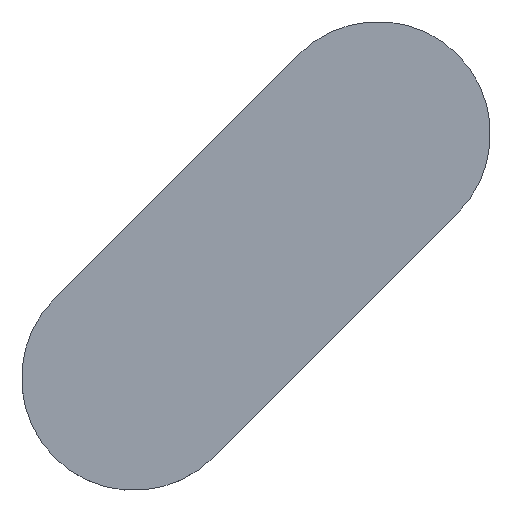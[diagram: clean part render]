
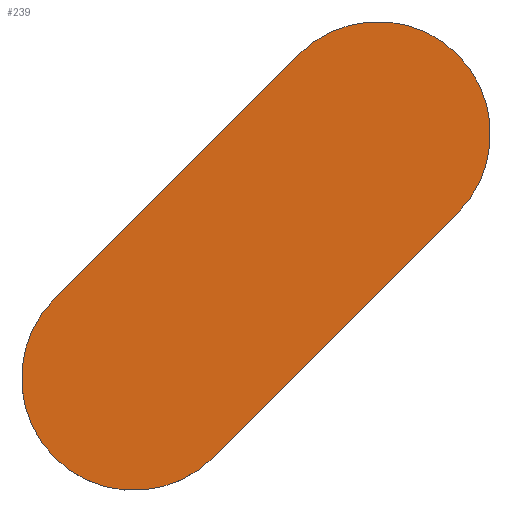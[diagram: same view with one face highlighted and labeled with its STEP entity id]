
A CAD part, top view. The second image highlights one B-rep face of the part: STEP entity #239.
In plain terms, the highlighted planar face has unit normal (0, 0, 1).
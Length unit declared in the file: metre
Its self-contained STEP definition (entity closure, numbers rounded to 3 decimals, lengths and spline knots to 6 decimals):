
#18=PLANE('',#273);
#34=LINE('',#413,#52);
#36=LINE('',#418,#54);
#52=VECTOR('',#341,1.);
#54=VECTOR('',#349,1.);
#121=ORIENTED_EDGE('',*,*,#149,.F.);
#122=ORIENTED_EDGE('',*,*,#154,.T.);
#123=ORIENTED_EDGE('',*,*,#152,.F.);
#124=ORIENTED_EDGE('',*,*,#156,.T.);
#149=EDGE_CURVE('',#173,#174,#189,.T.);
#152=EDGE_CURVE('',#175,#176,#190,.T.);
#154=EDGE_CURVE('',#173,#176,#34,.T.);
#156=EDGE_CURVE('',#175,#174,#36,.T.);
#173=VERTEX_POINT('',#402);
#174=VERTEX_POINT('',#404);
#175=VERTEX_POINT('',#408);
#176=VERTEX_POINT('',#410);
#189=CIRCLE('',#266,0.00065);
#190=CIRCLE('',#268,0.00065);
#206=EDGE_LOOP('',(#121,#122,#123,#124));
#222=FACE_BOUND('',#206,.T.);
#239=ADVANCED_FACE('',(#222),#18,.F.);
#266=AXIS2_PLACEMENT_3D('',#403,#330,#331);
#268=AXIS2_PLACEMENT_3D('',#409,#336,#337);
#273=AXIS2_PLACEMENT_3D('',#419,#350,#351);
#330=DIRECTION('',(0.,0.,-1.));
#331=DIRECTION('',(0.,1.,0.));
#336=DIRECTION('',(0.,0.,-1.));
#337=DIRECTION('',(0.,1.,0.));
#341=DIRECTION('',(-0.707,-0.707,0.));
#349=DIRECTION('',(0.707,0.707,0.));
#350=DIRECTION('',(0.,0.,-1.));
#351=DIRECTION('',(-1.,0.,0.));
#402=CARTESIAN_POINT('',(0.016453,0.005395,-0.03));
#403=CARTESIAN_POINT('',(0.016912,0.004936,-0.03));
#404=CARTESIAN_POINT('',(0.017372,0.004476,-0.03));
#408=CARTESIAN_POINT('',(0.015958,0.003062,-0.03));
#409=CARTESIAN_POINT('',(0.015498,0.003521,-0.03));
#410=CARTESIAN_POINT('',(0.015038,0.003981,-0.03));
#413=CARTESIAN_POINT('',(0.016453,0.005395,-0.03));
#418=CARTESIAN_POINT('',(0.015958,0.003062,-0.03));
#419=CARTESIAN_POINT('',(0.015498,0.,-0.03));
